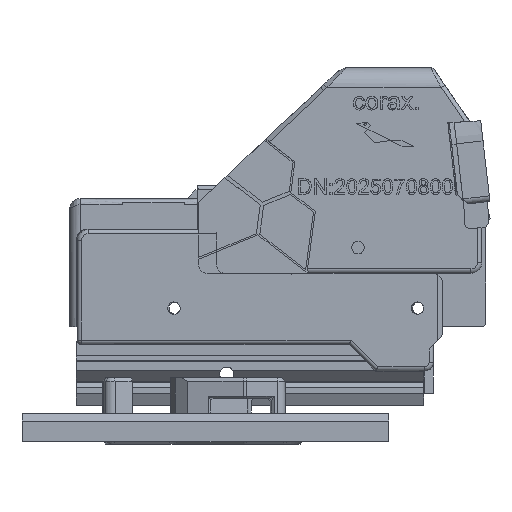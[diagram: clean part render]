
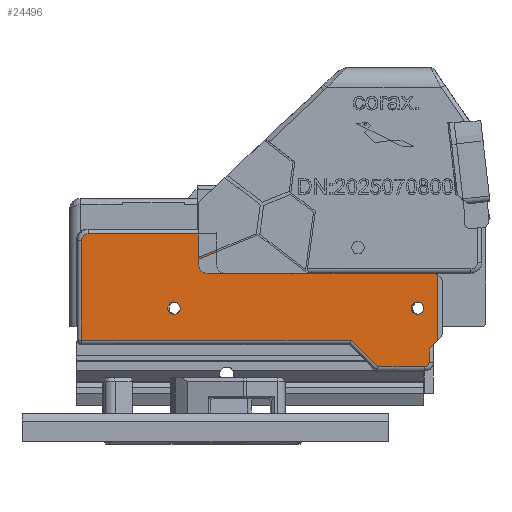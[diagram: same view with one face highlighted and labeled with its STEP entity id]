
A CAD part, left-side view. The second image highlights one B-rep face of the part: STEP entity #24496.
In plain terms, the highlighted planar face has unit normal (-1, 0, 0).
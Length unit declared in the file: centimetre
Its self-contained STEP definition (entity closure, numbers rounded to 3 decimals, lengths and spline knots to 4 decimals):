
#130=FACE_BOUND($,#3776,.T.);
#131=FACE_BOUND($,#3777,.T.);
#618=CIRCLE($,#25728,0.1);
#626=CIRCLE($,#25748,0.2);
#627=CIRCLE($,#25749,0.15);
#628=CIRCLE($,#25750,0.225);
#629=CIRCLE($,#25751,0.14);
#630=CIRCLE($,#25752,0.14);
#1151=PLANE($,#25747);
#2390=FACE_OUTER_BOUND($,#3775,.T.);
#3775=EDGE_LOOP($,(#20709,#20710,#20711,#20712,#20713,#20714,#20715,#20716,
#20717,#20718,#20719,#20720,#20721,#20722,#20723,#20724,#20725,#20726,#20727));
#3776=EDGE_LOOP($,(#20728));
#3777=EDGE_LOOP($,(#20729));
#5676=LINE($,#42260,#8201);
#5680=LINE($,#42268,#8205);
#5765=LINE($,#42511,#8290);
#5767=LINE($,#42531,#8292);
#5768=LINE($,#42537,#8293);
#5770=LINE($,#42541,#8295);
#5778=LINE($,#42563,#8303);
#5783=LINE($,#42577,#8308);
#5784=LINE($,#42579,#8309);
#5785=LINE($,#42581,#8310);
#5786=LINE($,#42582,#8311);
#5787=LINE($,#42586,#8312);
#5788=LINE($,#42588,#8313);
#5789=LINE($,#42591,#8314);
#5790=LINE($,#42593,#8315);
#8201=VECTOR($,#29127,3.1277);
#8205=VECTOR($,#29131,1.4621);
#8290=VECTOR($,#29304,1.0586);
#8292=VECTOR($,#29316,0.8485);
#8293=VECTOR($,#29323,0.3);
#8295=VECTOR($,#29327,6.0914);
#8303=VECTOR($,#29351,2.25);
#8308=VECTOR($,#29366,0.0087);
#8309=VECTOR($,#29367,0.04);
#8310=VECTOR($,#29368,0.0232);
#8311=VECTOR($,#29369,0.0517);
#8312=VECTOR($,#29372,0.6913);
#8313=VECTOR($,#29373,2.9);
#8314=VECTOR($,#29376,0.2828);
#8315=VECTOR($,#29377,1.4707);
#11532=VERTEX_POINT($,#42258);
#11533=VERTEX_POINT($,#42259);
#11536=VERTEX_POINT($,#42265);
#11537=VERTEX_POINT($,#42267);
#11612=VERTEX_POINT($,#42508);
#11613=VERTEX_POINT($,#42510);
#11615=VERTEX_POINT($,#42523);
#11617=VERTEX_POINT($,#42530);
#11619=VERTEX_POINT($,#42535);
#11620=VERTEX_POINT($,#42540);
#11626=VERTEX_POINT($,#42562);
#11630=VERTEX_POINT($,#42576);
#11631=VERTEX_POINT($,#42578);
#11632=VERTEX_POINT($,#42580);
#11633=VERTEX_POINT($,#42583);
#11634=VERTEX_POINT($,#42585);
#11635=VERTEX_POINT($,#42587);
#11636=VERTEX_POINT($,#42590);
#11637=VERTEX_POINT($,#42592);
#11638=VERTEX_POINT($,#42595);
#11639=VERTEX_POINT($,#42597);
#14677=EDGE_CURVE($,#11532,#11533,#5676,.T.);
#14681=EDGE_CURVE($,#11537,#11536,#5680,.T.);
#14785=EDGE_CURVE($,#11612,#11613,#5765,.T.);
#14788=EDGE_CURVE($,#11615,#11612,#618,.T.);
#14791=EDGE_CURVE($,#11613,#11617,#5767,.T.);
#14794=EDGE_CURVE($,#11619,#11615,#5768,.T.);
#14796=EDGE_CURVE($,#11617,#11620,#5770,.T.);
#14808=EDGE_CURVE($,#11620,#11626,#5778,.T.);
#14815=EDGE_CURVE($,#11533,#11630,#5783,.F.);
#14816=EDGE_CURVE($,#11631,#11630,#5784,.T.);
#14817=EDGE_CURVE($,#11631,#11632,#5785,.T.);
#14818=EDGE_CURVE($,#11632,#11537,#5786,.F.);
#14819=EDGE_CURVE($,#11536,#11633,#626,.T.);
#14820=EDGE_CURVE($,#11633,#11634,#5787,.T.);
#14821=EDGE_CURVE($,#11635,#11634,#5788,.T.);
#14822=EDGE_CURVE($,#11626,#11635,#627,.T.);
#14823=EDGE_CURVE($,#11636,#11619,#5789,.T.);
#14824=EDGE_CURVE($,#11637,#11636,#5790,.T.);
#14825=EDGE_CURVE($,#11532,#11637,#628,.T.);
#14826=EDGE_CURVE($,#11638,#11638,#629,.T.);
#14827=EDGE_CURVE($,#11639,#11639,#630,.T.);
#20709=ORIENTED_EDGE($,*,*,#14677,.T.);
#20710=ORIENTED_EDGE($,*,*,#14815,.T.);
#20711=ORIENTED_EDGE($,*,*,#14816,.F.);
#20712=ORIENTED_EDGE($,*,*,#14817,.T.);
#20713=ORIENTED_EDGE($,*,*,#14818,.T.);
#20714=ORIENTED_EDGE($,*,*,#14681,.T.);
#20715=ORIENTED_EDGE($,*,*,#14819,.T.);
#20716=ORIENTED_EDGE($,*,*,#14820,.T.);
#20717=ORIENTED_EDGE($,*,*,#14821,.F.);
#20718=ORIENTED_EDGE($,*,*,#14822,.F.);
#20719=ORIENTED_EDGE($,*,*,#14808,.F.);
#20720=ORIENTED_EDGE($,*,*,#14796,.F.);
#20721=ORIENTED_EDGE($,*,*,#14791,.F.);
#20722=ORIENTED_EDGE($,*,*,#14785,.F.);
#20723=ORIENTED_EDGE($,*,*,#14788,.F.);
#20724=ORIENTED_EDGE($,*,*,#14794,.F.);
#20725=ORIENTED_EDGE($,*,*,#14823,.F.);
#20726=ORIENTED_EDGE($,*,*,#14824,.F.);
#20727=ORIENTED_EDGE($,*,*,#14825,.F.);
#20728=ORIENTED_EDGE($,*,*,#14826,.T.);
#20729=ORIENTED_EDGE($,*,*,#14827,.T.);
#24496=ADVANCED_FACE($,(#2390,#130,#131),#1151,.F.);
#25728=AXIS2_PLACEMENT_3D($,#42525,#29309,#29310);
#25747=AXIS2_PLACEMENT_3D($,#42575,#29364,#29365);
#25748=AXIS2_PLACEMENT_3D($,#42584,#29370,#29371);
#25749=AXIS2_PLACEMENT_3D($,#42589,#29374,#29375);
#25750=AXIS2_PLACEMENT_3D($,#42594,#29378,#29379);
#25751=AXIS2_PLACEMENT_3D($,#42596,#29380,#29381);
#25752=AXIS2_PLACEMENT_3D($,#42598,#29382,#29383);
#29127=DIRECTION($,(0.,1.,0.));
#29131=DIRECTION($,(0.,1.,0.));
#29304=DIRECTION($,(0.,1.,0.));
#29309=DIRECTION('center_axis',(1.,0.,0.));
#29310=DIRECTION('ref_axis',(0.,-0.707,-0.707));
#29316=DIRECTION($,(0.,0.707,0.707));
#29323=DIRECTION($,(0.,0.,-1.));
#29327=DIRECTION($,(0.,1.,0.));
#29351=DIRECTION($,(0.,0.,1.));
#29364=DIRECTION('center_axis',(1.,0.,0.));
#29365=DIRECTION('ref_axis',(0.,0.,-1.));
#29366=DIRECTION($,(0.,-0.134,0.991));
#29367=DIRECTION($,(0.,-1.,0.));
#29368=DIRECTION($,(0.,0.134,-0.991));
#29369=DIRECTION($,(0.,-0.791,-0.612));
#29370=DIRECTION('center_axis',(1.,0.,0.));
#29371=DIRECTION('ref_axis',(0.,0.707,-0.707));
#29372=DIRECTION($,(0.,0.,1.));
#29373=DIRECTION($,(0.,-1.,0.));
#29374=DIRECTION('center_axis',(1.,0.,0.));
#29375=DIRECTION('ref_axis',(0.,0.707,0.707));
#29376=DIRECTION($,(0.,0.707,-0.707));
#29377=DIRECTION($,(0.,0.,-1.));
#29378=DIRECTION('center_axis',(1.,0.,0.));
#29379=DIRECTION('ref_axis',(0.,-0.707,0.707));
#29380=DIRECTION('center_axis',(1.,0.,0.));
#29381=DIRECTION('ref_axis',(0.,1.,0.));
#29382=DIRECTION('center_axis',(1.,0.,0.));
#29383=DIRECTION('ref_axis',(0.,1.,0.));
#42258=CARTESIAN_POINT('',(-18.3981,10.4539,4.0087));
#42259=CARTESIAN_POINT('',(-18.3981,13.5816,4.0087));
#42260=CARTESIAN_POINT($,(-18.3981,12.8289,4.0087));
#42265=CARTESIAN_POINT('',(-18.3981,15.1289,4.0087));
#42267=CARTESIAN_POINT('',(-18.3981,13.6668,4.0087));
#42268=CARTESIAN_POINT($,(-18.3981,12.8289,4.0087));
#42508=CARTESIAN_POINT('',(-18.3981,10.6289,1.9));
#42510=CARTESIAN_POINT('',(-18.3981,11.6875,1.9));
#42511=CARTESIAN_POINT($,(-18.3981,16.4039,1.9));
#42523=CARTESIAN_POINT('',(-18.3981,10.5289,2.));
#42525=CARTESIAN_POINT('Origin',(-18.3981,10.6289,2.));
#42530=CARTESIAN_POINT('',(-18.3981,12.2875,2.5));
#42531=CARTESIAN_POINT($,(-18.3981,12.7082,2.9207));
#42535=CARTESIAN_POINT('',(-18.3981,10.5289,2.3));
#42537=CARTESIAN_POINT($,(-18.3981,10.5289,2.075));
#42540=CARTESIAN_POINT('',(-18.3981,18.3789,2.5));
#42541=CARTESIAN_POINT($,(-18.3981,13.6539,2.5));
#42562=CARTESIAN_POINT('',(-18.3981,18.3789,4.75));
#42563=CARTESIAN_POINT($,(-18.3981,18.3789,2.075));
#42575=CARTESIAN_POINT('Origin',(-18.3981,14.3789,2.75));
#42576=CARTESIAN_POINT('',(-18.3981,13.5828,4.));
#42577=CARTESIAN_POINT($,(-18.3981,13.6248,3.6896));
#42578=CARTESIAN_POINT('',(-18.3981,13.6228,4.));
#42579=CARTESIAN_POINT($,(-18.3981,14.3789,4.));
#42580=CARTESIAN_POINT('',(-18.3981,13.6259,3.977));
#42581=CARTESIAN_POINT($,(-18.3981,13.664,3.6949));
#42582=CARTESIAN_POINT($,(-18.3981,14.1147,4.3548));
#42583=CARTESIAN_POINT('',(-18.3981,15.3289,4.2087));
#42584=CARTESIAN_POINT('Origin',(-18.3981,15.1289,4.2087));
#42585=CARTESIAN_POINT('',(-18.3981,15.3289,4.9));
#42586=CARTESIAN_POINT($,(-18.3981,15.3289,4.325));
#42587=CARTESIAN_POINT('',(-18.3981,18.2289,4.9));
#42588=CARTESIAN_POINT($,(-18.3981,14.3789,4.9));
#42589=CARTESIAN_POINT('Origin',(-18.3981,18.2289,4.75));
#42590=CARTESIAN_POINT('',(-18.3981,10.3289,2.5));
#42591=CARTESIAN_POINT($,(-18.3981,11.2789,1.55));
#42592=CARTESIAN_POINT('',(-18.3981,10.3289,3.9707));
#42593=CARTESIAN_POINT($,(-18.3981,10.3289,2.75));
#42594=CARTESIAN_POINT('Origin',(-18.3981,10.4539,3.7837));
#42595=CARTESIAN_POINT('',(-18.3981,10.65,3.2227));
#42596=CARTESIAN_POINT('Origin',(-18.3981,10.79,3.2227));
#42597=CARTESIAN_POINT('',(-18.3981,16.15,3.2227));
#42598=CARTESIAN_POINT('Origin',(-18.3981,16.29,3.2227));
